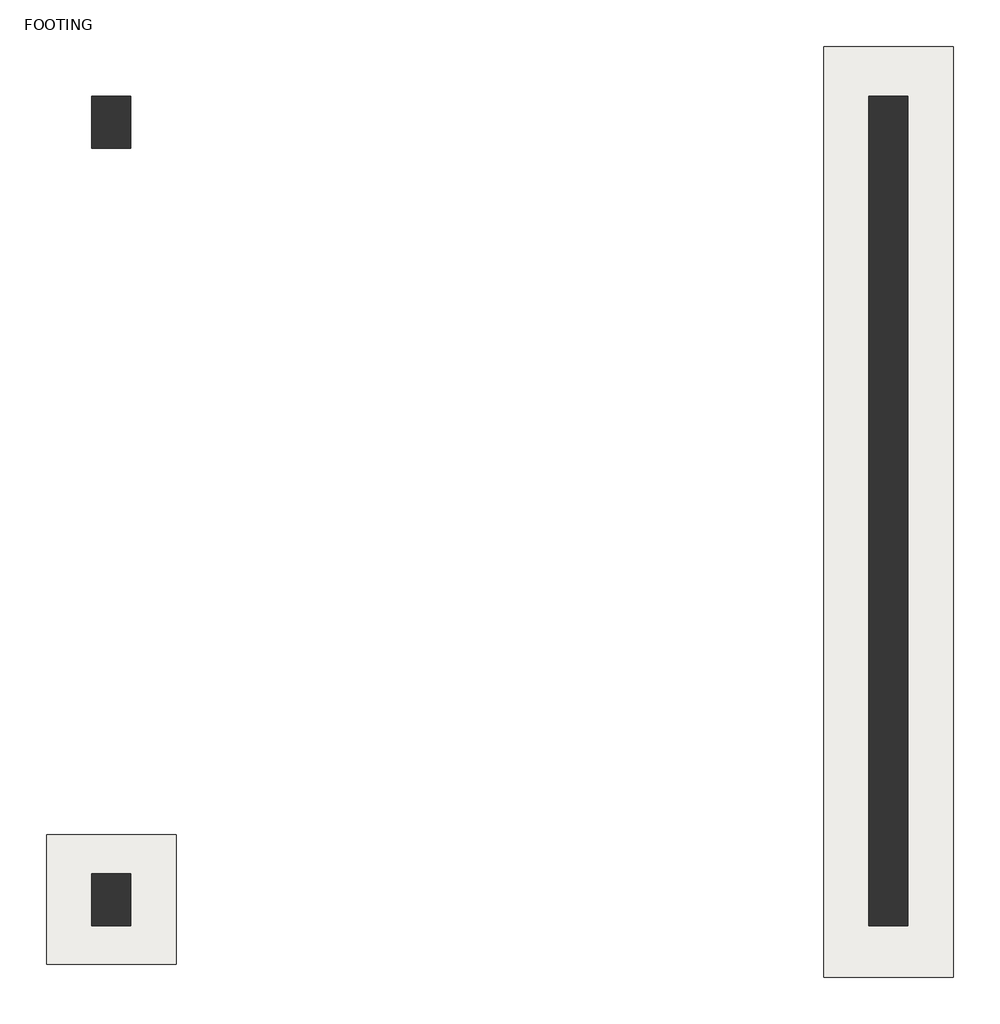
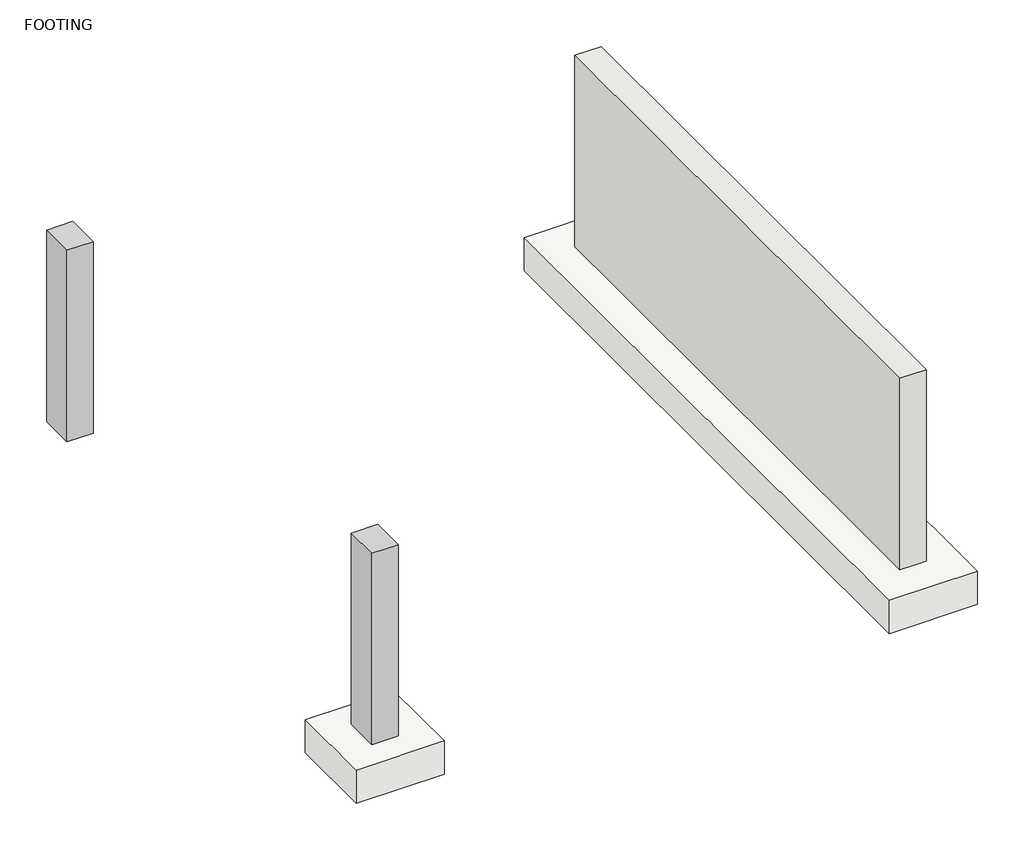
# One storey: 2 columns, 1 footing, 1 slab, 1 wall.
"""IFC4 building model written with IfcOpenShell, lengths in millimetres."""

from ifc_helpers import new_model, si_unit, frame, origin, place, context, project, spatial, polyline, outline, extrude, faceted_brep, transform, mapped, element, save
from components import slab_c859e583

model = new_model("IFC4")

# Units and contexts
model_context = context("Model", 3, world=origin())
ifc_project = project(units=[si_unit("LENGTHUNIT", "METRE", prefix="MILLI")], contexts=[model_context])

# Site, building, storey
site = spatial("IfcSite", under=ifc_project)
building = spatial("IfcBuilding", under=site)
storey = spatial("IfcBuildingStorey", under=building, Name="FOOTING", Elevation=-609.6)

# Columns
placement = place(None, origin())
element("IfcColumn", 1, ObjectType="Concrete-Rectangular-Column : 18 x 24", at=placement, inside=storey, context=model_context, shape_type="Brep", body=[
    faceted_brep([(-4343.4, 4876.8, -609.6), (-4343.4, 4267.2, -609.6), (-4800.6, 4267.2, -609.6), (-4800.6, 4876.8, -609.6), (-4343.4, 4876.8, -152.4), (-4343.4, 4876.8, 0.0), (-4343.4, 4876.8, 2895.6), (-4343.4, 4267.2, 2895.6), (-4343.4, 4267.2, 0.0), (-4343.4, 4267.2, -152.4), (-4800.6, 4267.2, 2895.6), (-4800.6, 4267.2, 0.0), (-4800.6, 4267.2, -152.4), (-4800.6, 4876.8, 2895.6)], [[[0, 1, 2, 3]], [[1, 0, 4, 5, 6, 7, 8, 9]], [[2, 1, 9, 8, 7, 10, 11, 12]], [[3, 2, 12, 11, 10, 13]], [[0, 3, 13, 6, 5, 4]], [[7, 6, 13, 10]]]),
])
element("IfcColumn", 2, ObjectType="Concrete-Rectangular-Column : 18 x 24", at=placement, inside=storey, context=model_context, shape_type="Brep", body=[
    faceted_brep([(-4343.4, -4267.2, -609.6), (-4343.4, -4876.8, -609.6), (-4800.6, -4876.8, -609.6), (-4800.6, -4267.2, -609.6), (-4343.4, -4267.2, -152.4), (-4343.4, -4267.2, 0.0), (-4343.4, -4267.2, 2895.6), (-4343.4, -4876.8, 2895.6), (-4343.4, -4876.8, 0.0), (-4343.4, -4876.8, -152.4), (-4800.6, -4876.8, 2895.6), (-4800.6, -4267.2, 2895.6), (-4800.6, -4267.2, 0.0), (-4800.6, -4267.2, -152.4)], [[[0, 1, 2, 3]], [[1, 0, 4, 5, 6, 7, 8, 9]], [[2, 1, 9, 8, 7, 10]], [[3, 2, 10, 11, 12, 13]], [[0, 3, 13, 12, 11, 6, 5, 4]], [[7, 6, 11, 10]]]),
])

# Footing
element("IfcFooting", 3, ObjectType="Bearing Footing - 60\" x 24\"", at=placement, inside=storey, context=model_context, shape_type="SweptSolid", body=[
    extrude(outline(polyline([(3810.0, 5461.0), (5334.0, 5461.0), (5334.0, -5486.4), (3810.0, -5486.4), (3810.0, 5461.0)])), frame((0.0, 0.0, -1219.2), z_axis=(0.0, 0.0, 1.0), x_axis=(1.0, 0.0, 0.0)), (0.0, 0.0, 1.0), 609.6),
])

# Slab
slab_shape = slab_c859e583(model_context)
element("IfcSlab", 4, ObjectType="Footing-Rectangular : 60\" x 60\" x 24\"", at=placement, inside=storey, context=model_context, shape_type="MappedRepresentation", body=[
    mapped(slab_shape, transform((-4572.0, -4572.0, -609.6), x_axis=(1.0, 0.0, 0.0), y_axis=(0.0, 1.0, 0.0), z_axis=(0.0, 0.0, 1.0))),
])

# Wall
element("IfcWall", 5, ObjectType="Core-shaft 18\" Concrete", at=placement, inside=storey, context=model_context, shape_type="SweptSolid", body=[
    extrude(outline(polyline([(4343.4, -4876.8), (4343.4, 4876.8), (4800.6, 4876.8), (4800.6, -4876.8), (4343.4, -4876.8)])), frame((0.0, 0.0, -609.6), z_axis=(0.0, 0.0, 1.0), x_axis=(1.0, 0.0, 0.0)), (0.0, 0.0, 1.0), 3505.2),
])

save(model, "model.ifc")
